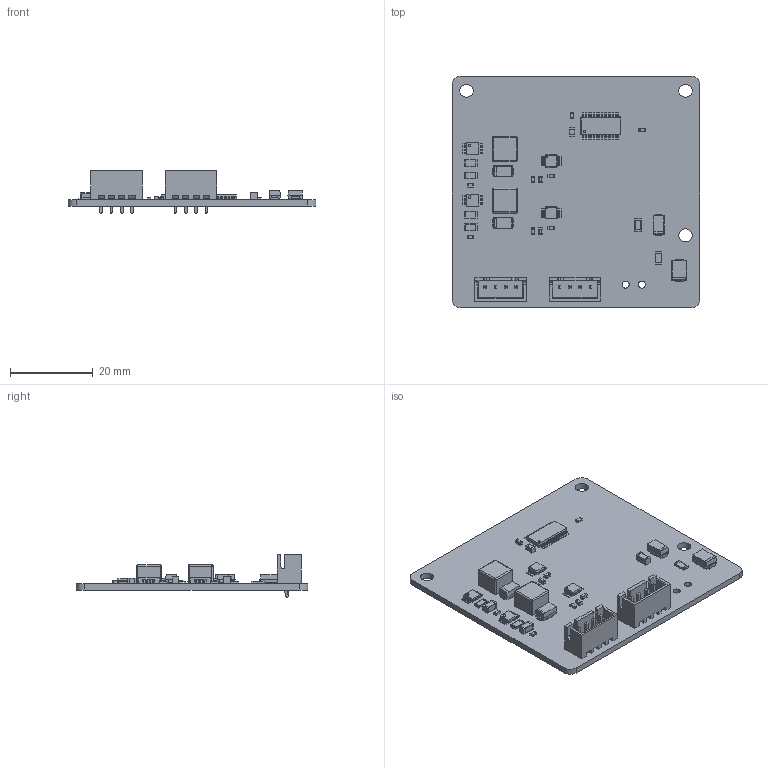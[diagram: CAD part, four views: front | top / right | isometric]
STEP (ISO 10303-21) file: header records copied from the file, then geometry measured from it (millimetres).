
FILE_DESCRIPTION(('KiCad electronic assembly'),'2;1');
FILE_NAME('AP_FOCO.step','2026-10-11T04:14:52',('Pcbnew'),('Kicad'), 'Open CASCADE STEP processor 7.6','KiCad to STEP converter','Unknown' );
FILE_SCHEMA(('AUTOMOTIVE_DESIGN { 1 0 10303 214 1 1 1 1 }'));
Length unit declared in the file: millimetre
Products named in the file (15): AP_FOCO 1; C_1206_3216Metric; Fuse_1206_3216Metric; R_0603_1608Metric; C_0805_2012Metric; R_1206_3216Metric; L_Changjiang_FNR6045S; C_0603_1608Metric; D_SMA; TSSOP-28_4.4x9.7mm_P0.65mm; MSOP-8-1EP_3x3mm_P0.65mm_EP1.5x1.8mm; VSSOP-10_3x3mm_P0.5mm; JST_XH_B4B-XH-A_1x04_P2.50mm_Vertical; D_SMB; AP_FOCO_PCB
Assembly tree (31 placements, depth 2):
  AP_FOCO 1
    C_1206_3216Metric  x3
    Fuse_1206_3216Metric
    R_0603_1608Metric  x5
    C_0805_2012Metric
    R_1206_3216Metric  x2
    L_Changjiang_FNR6045S  x2
    C_0603_1608Metric  x5
    D_SMA  x3
    TSSOP-28_4.4x9.7mm_P0.65mm
    MSOP-8-1EP_3x3mm_P0.65mm_EP1.5x1.8mm  x2
    VSSOP-10_3x3mm_P0.5mm  x2
    JST_XH_B4B-XH-A_1x04_P2.50mm_Vertical  x2
    D_SMB
    AP_FOCO_PCB
Bounding box: 60 x 56 x 10.4 mm (x, y, z)
Volume: 6067.8 mm3; surface area: 9451.4 mm2
Topology: 31 solids, 31 shells, 2093 faces, 5492 edges, 3498 vertices
Faces by surface type: plane 1421, cylinder 488, bspline 176, sphere 8
Full cylindrical faces by diameter (mm): 0.25 x2, 0.5 x1, 0.95 x8, 1.7 x2, 3.2 x3
Entity records: 37289 total; most frequent: CARTESIAN_POINT 6984, ORIENTED_EDGE 6418, DIRECTION 5928, EDGE_CURVE 3209, LINE 2522, VECTOR 2522, VERTEX_POINT 2039, AXIS2_PLACEMENT_3D 1703
